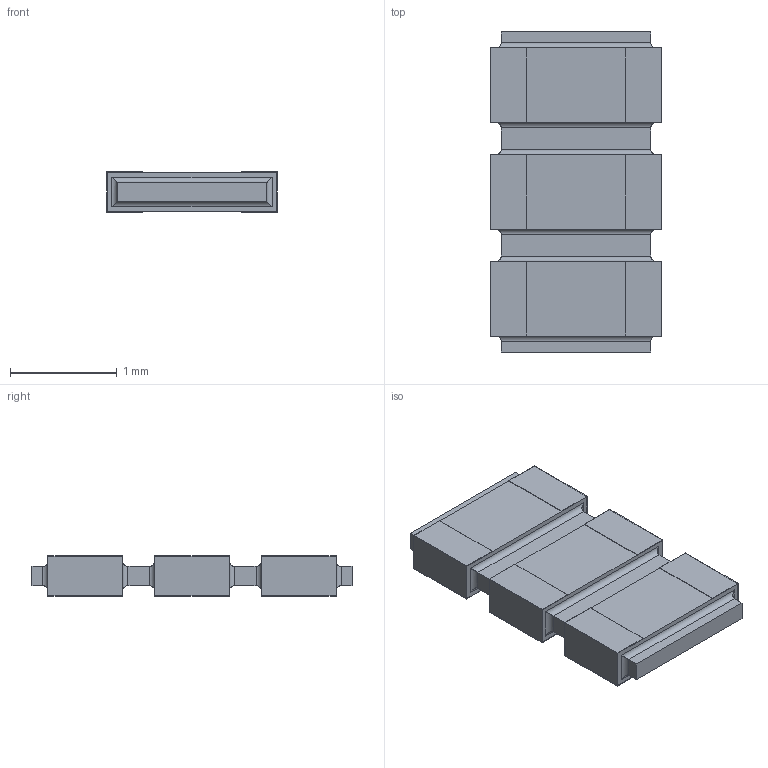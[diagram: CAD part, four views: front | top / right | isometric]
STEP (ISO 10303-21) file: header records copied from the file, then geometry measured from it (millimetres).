
FILE_DESCRIPTION(/* description */ (''),/* implementation_level */ '2;1');
FILE_NAME(/* name */ 'S:\DOCUMENT\AUTOCAD\3D_Modèles\10_3D-pour-VISHAY-COM\PRA\PRAHR100I3_B.stp',/* time_stamp */ '2018-02-02T10:45:47+01:00',/* author */ ('dparmentier'),/* organization */ ('unknown'),/* preprocessor_version */ 'ST-DEVELOPER v17',/* originating_system */ 'Autodesk Inventor 2018',/* authorisation */ '');
FILE_SCHEMA (('AUTOMOTIVE_DESIGN { 1 0 10303 214 3 1 1 }'));
Length unit declared in the file: millimetre
Products named in the file (1): PRAHR100I3_B
Bounding box: 1.6 x 3 x 0.38 mm (x, y, z)
Volume: 1.5 mm3; surface area: 22.1 mm2
Topology: 7 solids, 7 shells, 120 faces, 276 edges, 176 vertices
Faces by surface type: plane 96, cylinder 24
Entity records: 3359 total; most frequent: CARTESIAN_POINT 573, ORIENTED_EDGE 552, DIRECTION 542, EDGE_CURVE 276, LINE 252, VECTOR 252, VERTEX_POINT 176, AXIS2_PLACEMENT_3D 145
